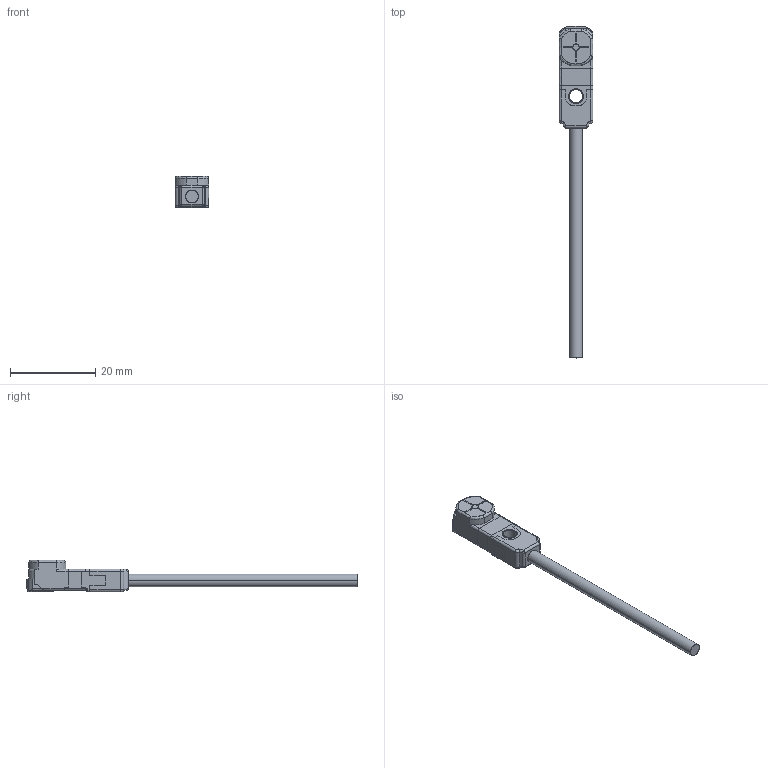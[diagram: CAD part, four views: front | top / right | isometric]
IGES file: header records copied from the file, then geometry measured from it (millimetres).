
Start section: SolidWorks IGES file using analytic representation for surfaces
Bounding box: 7.9 x 78 x 7.4 mm (x, y, z)
Surface area: 2204.2 mm2 (no closed solid volume)
Topology: 0 solids, 0 shells, 458 faces, 3488 edges, 3482 vertices
Faces by surface type: bspline 342, revolution 116
